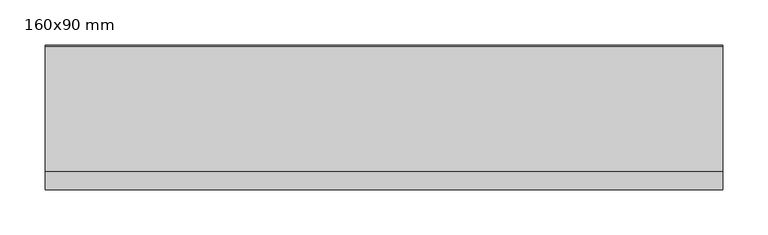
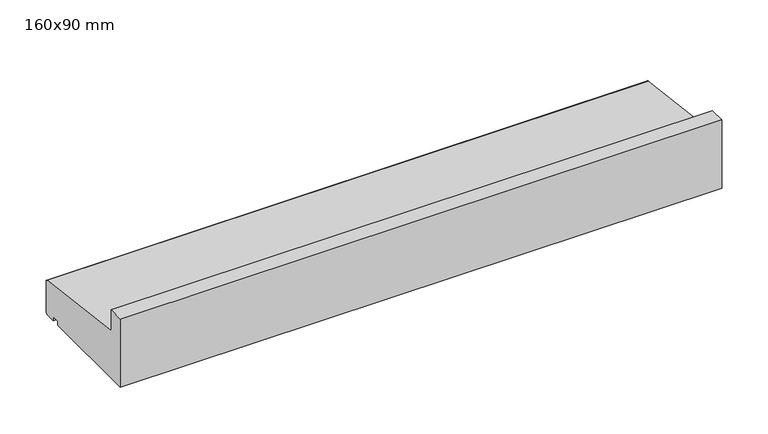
"""IFC4 building model written with IfcOpenShell, lengths in millimetres: proxy geometry, 400_35_NS_raamdorpel_160x90 : 160x90 mm."""

from ifc_helpers import new_model, si_unit, point, frame, frame_2d, origin, place, context, project, spatial, polyline, circle_curve, trimmed, segment, composite_curve, outline, extrude, source, transform, mapped, element, save


def proxy_160x90_mm_a9168e1c(model_context):
    return source(origin(), model_context, "Body", "SweptSolid", [
        extrude(outline(composite_curve([segment(polyline([(160.0, 2.0), (158.0, 0.0), (145.0, 0.0), (145.0, 5.0), (135.0, 5.0), (135.0, 0.0), (0.0, 0.0), (0.0, 90.0), (20.0, 90.0), (20.0, 62.5), (158.2480695, 45.2189913)]), True, "CONTINUOUS"), segment(trimmed(circle_curve(frame_2d((158.0, 43.2344356)), 2.0), [point((158.2480695, 45.2189913))], [point((160.0, 43.2344356))], False, "CARTESIAN"), True, "CONTINUOUS"), segment(polyline([(160.0, 43.2344356), (160.0, 2.0)]), True, "CONTINUOUS")], self_intersect=False)), frame((-375.0, 0.0, 0.0), z_axis=(1.0, 0.0, 0.0), x_axis=(0.0, 1.0, 0.0)), (0.0, 0.0, 1.0), 750.0),
    ])


if __name__ == "__main__":
    model = new_model("IFC4")
    model_context = context("Model", 3, world=origin())
    ifc_project = project(units=[si_unit("LENGTHUNIT", "METRE", prefix="MILLI")], contexts=[model_context])
    site = spatial("IfcSite", under=ifc_project)
    building = spatial("IfcBuilding", under=site)
    placement = place(None, origin())
    proxy_160x90_mm_shape = proxy_160x90_mm_a9168e1c(model_context)
    element("IfcBuildingElementProxy", 1, Name="400_35_NS_raamdorpel_160x90 : 160x90 mm", ObjectType="400_35_NS_raamdorpel_160x90 : 160x90 mm", at=placement, inside=building, context=model_context, shape_type="MappedRepresentation", body=[
        mapped(proxy_160x90_mm_shape, transform((0.0, 0.0, 0.0), x_axis=(1.0, 0.0, 0.0), y_axis=(0.0, 1.0, 0.0), z_axis=(0.0, 0.0, 1.0))),
    ])
    save(model, "model.ifc")
